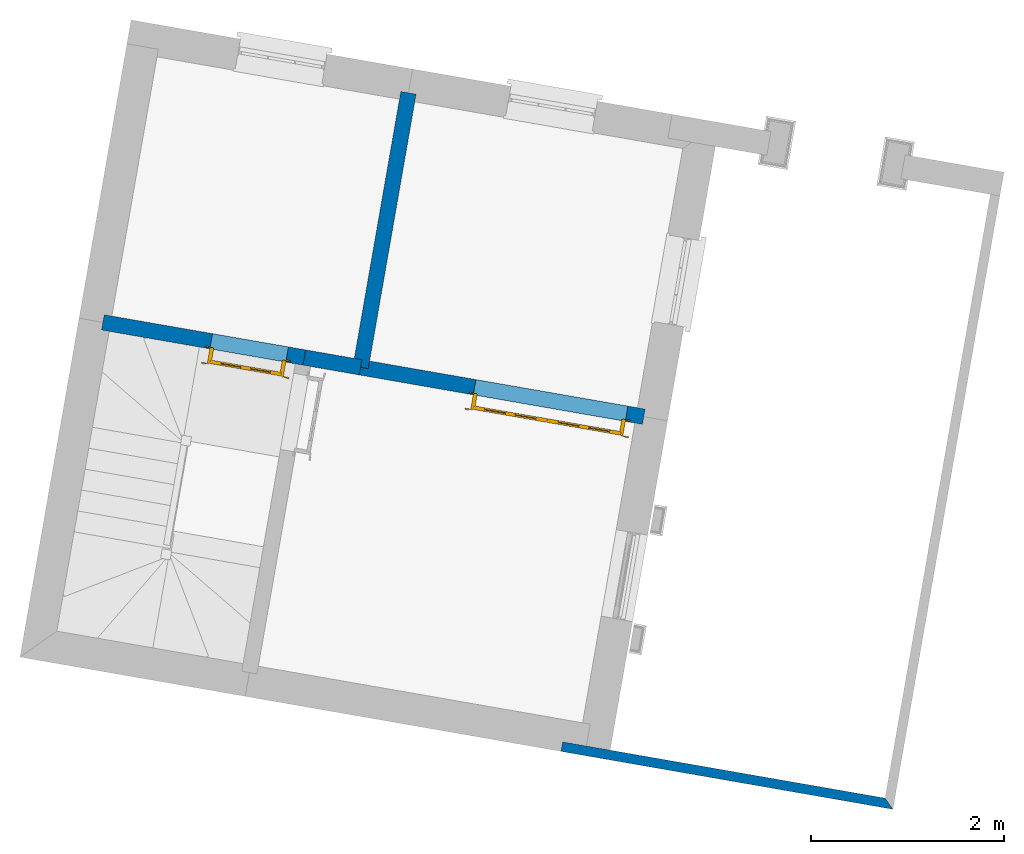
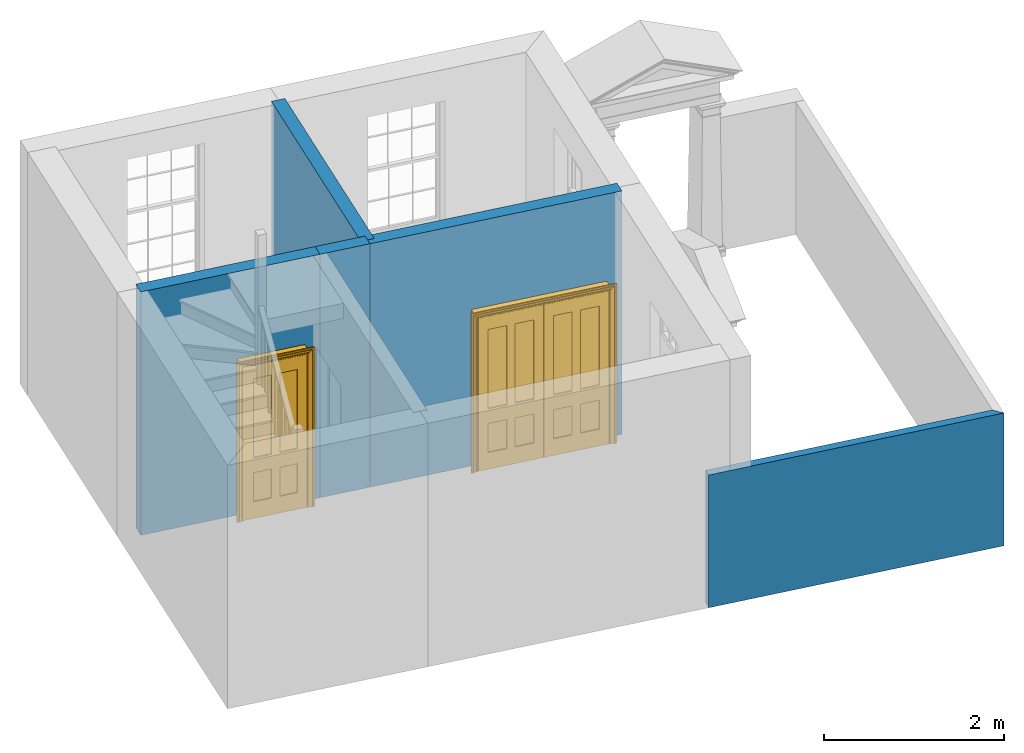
# One storey, part 3 of 6: 5 walls, 2 doors, 2 openings.
"""IFC4 building model written with IfcOpenShell, lengths in metres."""

from ifc_helpers import new_model, si_unit, frame, origin, origin_with_axes, place, context, subcontext, project, spatial, polyline, outline, extrude, faceted_brep, source, transform, mapped, material, layer, layer_set, layer_usage, type_object, type_shapes, element, fill, save


model = new_model("IFC4")

# Units and contexts
model_context = context("Model", 3, world=origin_with_axes())
body_context = subcontext(model_context, "Body", "Model", "MODEL_VIEW")
ifc_project = project(units=[si_unit("PLANEANGLEUNIT", "RADIAN"), si_unit("MASSUNIT", "GRAM", prefix="KILO"), si_unit("FORCEUNIT", "NEWTON", prefix="KILO"), si_unit("LENGTHUNIT", "METRE"), si_unit("AREAUNIT", "SQUARE_METRE"), si_unit("VOLUMEUNIT", "CUBIC_METRE")], contexts=[model_context, model_context])

# Sites, building, storey
site_1_placement = place(None, origin_with_axes())
site_1 = spatial("IfcSite", under=ifc_project, at=site_1_placement, Name="Tamar")
site_2_placement = place(site_1_placement, origin_with_axes())
site_2 = spatial("IfcSite", under=site_1, at=site_2_placement, Name="Site plot-27", CompositionType="ELEMENT")
building_placement = place(None, origin_with_axes())
building = spatial("IfcBuilding", under=site_2, at=building_placement, Name="Building plot-27", CompositionType="ELEMENT")
storey_placement = place(None, frame((0.0, 0.0, 26.0), z_axis=(0.0, 0.0, 1.0), x_axis=(1.0, 0.0, 0.0)))
storey = spatial("IfcBuildingStorey", under=building, at=storey_placement, Name="plot-27 0", CompositionType="ELEMENT", Elevation=26.0)

# Wall, opening, door
ifc_material_1 = material(Name="Masonry")
ifc_layer_1 = layer(ifc_material_1, 0.16, ventilated=False)
ifc_layer_set_1 = layer_set([ifc_layer_1], Name="interior_0.08_0.08")
ifc_layer_usage_1 = layer_usage(ifc_layer_set_1, "AXIS2", "POSITIVE", -0.08)
wall_type_1 = type_object("IfcWallType", Name="interior_0.08_0.08", PredefinedType="SOLIDWALL", material=ifc_layer_set_1)
wall_1_placement = place(storey_placement, frame((297.19996948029, 271.518143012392, 0.0), z_axis=(0.0, 0.0, 1.0), x_axis=(-0.985133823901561, 0.171788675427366, 0.0)))
wall_1 = element("IfcWall", 1, at=wall_1_placement, inside=storey, type_object=wall_type_1, material=ifc_layer_usage_1, Name="interior", context=body_context, shape_type="SweptSolid", body=[
    extrude(outline(polyline([(-2.16311277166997e-14, 0.0800000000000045), (2.16409248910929e-14, -0.0800000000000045), (2.97869342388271, -0.0800000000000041), (2.97869342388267, 0.0800000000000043), (-2.16311277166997e-14, 0.0800000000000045)])), origin_with_axes(), (0.0, 0.0, 1.0), 3.3),
])
opening_1_placement = place(wall_1_placement, frame((0.180000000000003, 0.0, 0.0199999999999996)))
opening_1 = element("IfcOpeningElement", 2, at=opening_1_placement, cuts=wall_1, Name="My Opening", ObjectType="Opening", context=body_context, shape_type="SweptSolid", body=[
    extrude(outline(polyline([(0.0, -0.100000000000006), (1.59999999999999, -0.0999999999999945), (1.59999999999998, 1.09999999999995), (-1.49324996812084e-14, 1.09999999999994), (0.0, -0.100000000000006)])), origin_with_axes(), (0.0, 0.0, 1.0), 2.1),
])
door_type_1 = type_object("IfcDoorType", Name="door_inside_double", OperationType="SINGLE_SWING_LEFT", PredefinedType="NOTDEFINED")
shared_shape_1 = source(origin(), body_context, "Body", "Brep", [
    faceted_brep([(0.14, 0.307, 1.895), (0.14, 0.307, 0.82), (0.363, 0.307, 0.82), (0.363, 0.307, 1.895), (0.14, 0.292, 1.895), (0.14, 0.292, 0.82), (0.363, 0.292, 0.82), (0.363, 0.292, 1.895), (0.027, 0.292, 1.895), (0.027, 0.292, 0.82), (0.363, 0.292, 0.62), (0.14, 0.292, 0.62), (0.463, 0.292, 0.82), (0.463, 0.292, 1.895), (0.363, 0.292, 2.073), (0.14, 0.292, 2.073), (0.027, 0.292, 2.073), (0.027, 0.33, 1.895), (0.027, 0.33, 0.82), (0.027, 0.292, 0.62), (0.463, 0.292, 0.62), (0.14, 0.307, 0.62), (0.363, 0.307, 0.62), (0.463, 0.307, 0.82), (0.463, 0.307, 1.895), (0.463, 0.292, 2.073), (0.14, 0.33, 2.073), (0.363, 0.33, 2.073), (0.027, 0.33, 2.073), (0.14, 0.33, 1.895), (0.14, 0.33, 0.82), (0.027, 0.33, 0.62), (0.027, 0.292, 0.225), (0.14, 0.292, 0.225), (0.363, 0.292, 0.225), (0.463, 0.292, 0.225), (0.686, 0.292, 0.62), (0.686, 0.292, 0.82), (0.14, 0.307, 0.225), (0.363, 0.307, 0.225), (0.686, 0.307, 0.82), (0.686, 0.307, 1.895), (0.686, 0.292, 1.895), (0.686, 0.292, 2.073), (0.463, 0.33, 2.073), (0.363, 0.33, 1.895), (0.14, 0.315, 1.895), (0.14, 0.315, 0.82), (0.14, 0.33, 0.62), (0.027, 0.33, 0.225), (0.027, 0.292, 0.0), (0.14, 0.292, 0.0), (0.363, 0.292, 0.0), (0.463, 0.292, 0.0), (0.463, 0.307, 0.225), (0.463, 0.307, 0.62), (0.686, 0.307, 0.62), (0.799, 0.292, 0.62), (0.799, 0.292, 0.82), (0.799, 0.292, 1.895), (0.799, 0.292, 2.073), (0.686, 0.33, 2.073), (0.463, 0.33, 1.895), (0.363, 0.315, 1.895), (0.363, 0.315, 0.82), (0.363, 0.33, 0.82), (0.363, 0.33, 0.62), (0.14, 0.33, 0.225), (0.027, 0.33, 0.0), (0.14, 0.33, 0.0), (0.363, 0.33, 0.0), (0.463, 0.33, 0.0), (0.686, 0.292, 0.0), (0.686, 0.292, 0.225), (0.686, 0.307, 0.225), (0.799, 0.292, 0.225), (0.799, 0.33, 0.62), (0.799, 0.33, 0.82), (0.799, 0.33, 1.895), (0.799, 0.33, 2.073), (0.686, 0.33, 1.895), (0.463, 0.33, 0.82), (0.463, 0.33, 0.62), (0.363, 0.315, 0.62), (0.14, 0.315, 0.62), (0.14, 0.315, 0.225), (0.363, 0.33, 0.225), (0.463, 0.33, 0.225), (0.686, 0.33, 0.0), (0.799, 0.292, 0.0), (0.799, 0.33, 0.225), (0.686, 0.33, 0.62), (0.686, 0.33, 0.82), (0.686, 0.315, 1.895), (0.463, 0.315, 1.895), (0.463, 0.315, 0.82), (0.363, 0.315, 0.225), (0.686, 0.33, 0.225), (0.799, 0.33, 0.0), (0.686, 0.315, 0.82), (0.463, 0.315, 0.62), (0.463, 0.315, 0.225), (0.686, 0.315, 0.62), (0.686, 0.315, 0.225), (1.46, 0.33, 1.895), (1.237, 0.33, 1.895), (1.237, 0.33, 2.073), (1.46, 0.33, 2.073), (1.46, 0.315, 1.895), (1.237, 0.315, 1.895), (1.137, 0.33, 1.895), (1.137, 0.33, 2.073), (1.237, 0.292, 2.073), (1.46, 0.292, 2.073), (1.573, 0.33, 1.895), (1.573, 0.33, 2.073), (1.46, 0.33, 0.82), (1.46, 0.315, 0.82), (1.237, 0.315, 0.82), (1.237, 0.33, 0.82), (1.137, 0.33, 0.82), (0.914, 0.33, 2.073), (0.914, 0.33, 1.895), (1.137, 0.292, 2.073), (1.237, 0.292, 1.895), (1.46, 0.292, 1.895), (1.573, 0.292, 2.073), (1.573, 0.33, 0.82), (1.573, 0.292, 1.895), (1.237, 0.33, 0.62), (1.137, 0.33, 0.62), (1.137, 0.315, 0.82), (1.137, 0.315, 1.895), (0.914, 0.292, 2.073), (0.914, 0.315, 1.895), (0.801, 0.33, 2.073), (0.801, 0.33, 1.895), (1.137, 0.292, 1.895), (1.237, 0.307, 1.895), (1.46, 0.307, 1.895), (1.573, 0.292, 0.82), (1.573, 0.33, 0.62), (1.46, 0.33, 0.62), (1.237, 0.33, 0.225), (1.137, 0.33, 0.225), (0.914, 0.33, 0.82), (0.914, 0.33, 0.62), (0.914, 0.315, 0.82), (0.801, 0.292, 2.073), (0.914, 0.292, 1.895), (0.801, 0.33, 0.82), (0.801, 0.292, 1.895), (1.137, 0.292, 0.82), (1.237, 0.292, 0.82), (1.237, 0.307, 0.82), (1.46, 0.307, 0.82), (1.46, 0.292, 0.82), (1.573, 0.292, 0.62), (1.573, 0.33, 0.225), (1.46, 0.33, 0.225), (1.46, 0.315, 0.62), (1.237, 0.315, 0.62), (1.237, 0.33, 0.0), (1.137, 0.33, 0.0), (1.137, 0.315, 0.225), (1.137, 0.315, 0.62), (1.237, 0.315, 0.225), (0.914, 0.315, 0.62), (0.801, 0.33, 0.62), (0.914, 0.307, 1.895), (1.137, 0.307, 1.895), (0.801, 0.292, 0.82), (1.137, 0.292, 0.62), (1.237, 0.292, 0.62), (1.137, 0.307, 0.82), (1.46, 0.292, 0.62), (1.573, 0.292, 0.225), (1.573, 0.33, 0.0), (1.46, 0.33, 0.0), (1.46, 0.315, 0.225), (1.237, 0.292, 0.0), (1.137, 0.292, 0.0), (0.914, 0.33, 0.225), (0.914, 0.33, 0.0), (0.914, 0.315, 0.225), (0.801, 0.33, 0.225), (0.801, 0.292, 0.62), (0.914, 0.292, 0.82), (0.914, 0.307, 0.82), (1.137, 0.292, 0.225), (1.237, 0.292, 0.225), (0.914, 0.292, 0.62), (1.46, 0.292, 0.225), (1.573, 0.292, 0.0), (1.46, 0.292, 0.0), (0.914, 0.292, 0.0), (0.801, 0.33, 0.0), (0.801, 0.292, 0.225), (1.237, 0.307, 0.225), (1.237, 0.307, 0.62), (1.137, 0.307, 0.62), (1.137, 0.307, 0.225), (1.46, 0.307, 0.62), (0.914, 0.307, 0.62), (1.46, 0.307, 0.225), (0.914, 0.292, 0.225), (0.801, 0.292, 0.0), (0.914, 0.307, 0.225), (0.02, 0.335, 0.0), (0.005, 0.34, 0.0), (0.005, 0.34, 2.095), (0.02, 0.335, 2.08), (0.02, 0.33, 0.0), (0.0, 0.335, 0.0), (0.0, 0.335, 2.1), (1.595, 0.34, 2.095), (1.58, 0.335, 2.08), (0.02, 0.33, 2.08), (0.0, 0.33, 0.0), (-0.032, 0.345, 0.0), (-0.032, 0.345, 2.132), (1.6, 0.335, 2.1), (1.595, 0.34, 0.0), (1.58, 0.335, 0.0), (1.58, 0.33, 2.08), (0.025, 0.33, 0.0), (0.025, 0.33, 2.075), (-0.04, 0.34, 0.0), (0.025, 0.29, 0.0), (0.0, 0.17, 0.0), (-0.04, 0.34, 2.14), (1.632, 0.345, 2.132), (1.6, 0.335, 0.0), (1.58, 0.33, 0.0), (1.575, 0.33, 2.075), (0.025, 0.29, 2.075), (-0.06, 0.33, 0.0), (0.035, 0.17, 0.0), (0.0, 0.17, 2.1), (0.0, 0.33, 2.1), (-0.04, 0.345, 0.0), (-0.04, 0.345, 2.14), (1.64, 0.34, 2.14), (1.632, 0.345, 0.0), (1.6, 0.33, 0.0), (1.575, 0.33, 0.0), (1.575, 0.29, 2.075), (0.04, 0.29, 0.0), (0.04, 0.29, 2.06), (-0.06, 0.345, 0.0), (-0.06, 0.33, 2.16), (0.015, 0.165, 0.0), (0.04, 0.17, 0.0), (-0.045, 0.17, 2.145), (-0.045, 0.17, 0.0), (1.6, 0.17, 2.1), (1.6, 0.33, 2.1), (-0.06, 0.345, 2.16), (1.64, 0.345, 2.14), (1.64, 0.34, 0.0), (1.6, 0.17, 0.0), (1.575, 0.29, 0.0), (1.56, 0.29, 2.06), (0.04, 0.17, 2.06), (1.66, 0.33, 2.16), (-0.017, 0.155, 0.0), (-0.025, 0.16, 0.0), (0.02, 0.16, 0.0), (0.035, 0.165, 0.0), (0.035, 0.17, 2.065), (1.645, 0.17, 2.145), (-0.045, 0.155, 2.145), (-0.045, 0.155, 0.0), (1.66, 0.345, 2.16), (1.64, 0.345, 0.0), (1.66, 0.33, 0.0), (1.565, 0.17, 0.0), (1.56, 0.29, 0.0), (1.56, 0.17, 2.06), (-0.017, 0.155, 2.117), (-0.025, 0.16, 2.125), (0.015, 0.165, 2.085), (0.02, 0.16, 2.08), (0.035, 0.165, 2.065), (1.565, 0.17, 2.065), (1.645, 0.17, 0.0), (1.645, 0.155, 2.145), (-0.025, 0.155, 0.0), (1.66, 0.345, 0.0), (1.585, 0.165, 0.0), (1.56, 0.17, 0.0), (1.617, 0.155, 2.117), (1.625, 0.16, 2.125), (-0.025, 0.155, 2.125), (1.585, 0.165, 2.085), (1.58, 0.16, 2.08), (1.565, 0.165, 2.065), (1.625, 0.16, 0.0), (1.645, 0.155, 0.0), (1.625, 0.155, 2.125), (1.617, 0.155, 0.0), (1.565, 0.165, 0.0), (1.58, 0.16, 0.0), (1.625, 0.155, 0.0)], [[[0, 1, 2, 3]], [[1, 0, 4, 5]], [[2, 1, 5, 6]], [[6, 7, 3, 2]], [[7, 4, 0, 3]], [[4, 8, 9, 5]], [[10, 6, 5, 11]], [[6, 12, 13, 7]], [[14, 15, 4, 7]], [[15, 16, 8, 4]], [[9, 8, 17, 18]], [[5, 9, 19, 11]], [[10, 20, 12, 6]], [[10, 11, 21, 22]], [[13, 12, 23, 24]], [[7, 13, 25, 14]], [[26, 15, 14, 27]], [[28, 16, 15, 26]], [[8, 16, 28, 17]], [[17, 29, 30, 18]], [[18, 31, 19, 9]], [[11, 19, 32, 33]], [[34, 35, 20, 10]], [[20, 36, 37, 12]], [[11, 33, 38, 21]], [[39, 22, 21, 38]], [[34, 10, 22, 39]], [[12, 37, 40, 23]], [[24, 23, 40, 41]], [[42, 13, 24, 41]], [[13, 42, 43, 25]], [[14, 25, 44, 27]], [[26, 27, 45, 29]], [[28, 26, 29, 17]], [[30, 29, 46, 47]], [[18, 30, 48, 31]], [[31, 49, 32, 19]], [[33, 32, 50, 51]], [[52, 53, 35, 34]], [[20, 35, 54, 55]], [[36, 20, 55, 56]], [[36, 57, 58, 37]], [[33, 34, 39, 38]], [[37, 42, 41, 40]], [[42, 59, 60, 43]], [[44, 25, 43, 61]], [[62, 45, 27, 44]], [[29, 45, 63, 46]], [[46, 63, 64, 47]], [[65, 30, 47, 64]], [[30, 65, 66, 48]], [[31, 48, 67, 49]], [[68, 50, 32, 49]], [[68, 69, 51, 50]], [[34, 33, 51, 52]], [[53, 52, 70, 71]], [[53, 72, 73, 35]], [[35, 73, 74, 54]], [[55, 54, 74, 56]], [[73, 36, 56, 74]], [[73, 75, 57, 36]], [[57, 76, 77, 58]], [[37, 58, 59, 42]], [[78, 79, 60, 59]], [[60, 79, 61, 43]], [[80, 62, 44, 61]], [[81, 65, 45, 62]], [[45, 65, 64, 63]], [[82, 66, 65, 81]], [[48, 66, 83, 84]], [[67, 48, 84, 85]], [[49, 67, 69, 68]], [[52, 51, 69, 70]], [[71, 70, 86, 87]], [[72, 53, 71, 88]], [[72, 89, 75, 73]], [[75, 90, 76, 57]], [[76, 91, 92, 77]], [[78, 59, 58, 77]], [[78, 80, 61, 79]], [[62, 80, 93, 94]], [[81, 62, 94, 95]], [[87, 86, 66, 82]], [[91, 82, 81, 92]], [[66, 86, 96, 83]], [[84, 83, 96, 85]], [[86, 67, 85, 96]], [[67, 86, 70, 69]], [[88, 71, 87, 97]], [[89, 72, 88, 98]], [[89, 98, 90, 75]], [[90, 97, 91, 76]], [[80, 78, 77, 92]], [[80, 92, 99, 93]], [[99, 95, 94, 93]], [[92, 81, 95, 99]], [[87, 82, 100, 101]], [[82, 91, 102, 100]], [[97, 87, 101, 103]], [[98, 88, 97, 90]], [[91, 97, 103, 102]], [[103, 101, 100, 102]], [[104, 105, 106, 107]], [[105, 104, 108, 109]], [[105, 110, 111, 106]], [[106, 112, 113, 107]], [[114, 104, 107, 115]], [[104, 116, 117, 108]], [[117, 118, 109, 108]], [[119, 105, 109, 118]], [[119, 120, 110, 105]], [[121, 111, 110, 122]], [[123, 112, 106, 111]], [[124, 125, 113, 112]], [[126, 115, 107, 113]], [[104, 114, 127, 116]], [[114, 115, 126, 128]], [[116, 119, 118, 117]], [[129, 130, 120, 119]], [[110, 120, 131, 132]], [[121, 133, 123, 111]], [[122, 110, 132, 134]], [[135, 121, 122, 136]], [[137, 124, 112, 123]], [[125, 124, 138, 139]], [[125, 128, 126, 113]], [[114, 128, 140, 127]], [[141, 142, 116, 127]], [[142, 129, 119, 116]], [[143, 144, 130, 129]], [[145, 120, 130, 146]], [[120, 145, 147, 131]], [[134, 132, 131, 147]], [[135, 148, 133, 121]], [[123, 133, 149, 137]], [[145, 122, 134, 147]], [[136, 122, 145, 150]], [[151, 148, 135, 136]], [[152, 153, 124, 137]], [[124, 153, 154, 138]], [[138, 154, 155, 139]], [[156, 125, 139, 155]], [[156, 140, 128, 125]], [[157, 141, 127, 140]], [[158, 159, 142, 141]], [[129, 142, 160, 161]], [[162, 163, 144, 143]], [[130, 144, 164, 165]], [[143, 129, 161, 166]], [[146, 130, 165, 167]], [[150, 145, 146, 168]], [[133, 148, 151, 149]], [[137, 149, 169, 170]], [[171, 151, 136, 150]], [[172, 173, 153, 152]], [[152, 137, 170, 174]], [[153, 156, 155, 154]], [[175, 157, 140, 156]], [[176, 158, 141, 157]], [[177, 178, 159, 158]], [[142, 159, 179, 160]], [[179, 166, 161, 160]], [[180, 181, 163, 162]], [[182, 144, 163, 183]], [[178, 162, 143, 159]], [[144, 182, 184, 164]], [[167, 165, 164, 184]], [[159, 143, 166, 179]], [[182, 146, 167, 184]], [[168, 146, 182, 185]], [[150, 168, 186, 171]], [[149, 151, 171, 187]], [[149, 187, 188, 169]], [[169, 188, 174, 170]], [[189, 190, 173, 172]], [[173, 175, 156, 153]], [[172, 152, 187, 191]], [[187, 152, 174, 188]], [[192, 176, 157, 175]], [[193, 177, 158, 176]], [[193, 194, 178, 177]], [[181, 180, 190, 189]], [[181, 195, 183, 163]], [[194, 180, 162, 178]], [[185, 182, 183, 196]], [[168, 185, 197, 186]], [[187, 171, 186, 191]], [[173, 190, 198, 199]], [[189, 172, 200, 201]], [[175, 173, 199, 202]], [[172, 191, 203, 200]], [[194, 193, 176, 192]], [[192, 175, 202, 204]], [[180, 194, 192, 190]], [[189, 205, 195, 181]], [[196, 183, 195, 206]], [[196, 206, 197, 185]], [[191, 186, 197, 205]], [[190, 192, 204, 198]], [[199, 198, 204, 202]], [[201, 200, 203, 207]], [[205, 189, 201, 207]], [[191, 205, 207, 203]], [[205, 197, 206, 195]], [[208, 209, 210, 211]], [[208, 212, 213, 209]], [[209, 213, 214, 210]], [[211, 210, 215, 216]], [[211, 217, 212, 208]], [[218, 213, 212]], [[213, 219, 220, 214]], [[210, 214, 221, 215]], [[216, 215, 222, 223]], [[217, 211, 216, 224]], [[225, 212, 217, 226]], [[219, 213, 218, 227]], [[218, 212, 228, 229]], [[219, 227, 230, 220]], [[214, 220, 231, 221]], [[215, 221, 232, 222]], [[222, 232, 233, 223]], [[224, 216, 223, 233]], [[226, 217, 224, 234]], [[225, 228, 212]], [[235, 228, 225, 226]], [[236, 227, 218]], [[237, 229, 228]], [[229, 238, 239, 218]], [[227, 240, 241, 230]], [[220, 230, 242, 231]], [[221, 231, 243, 232]], [[244, 233, 232]], [[234, 224, 233, 245]], [[246, 235, 226, 234]], [[247, 228, 235, 248]], [[240, 227, 236, 249]], [[239, 250, 236, 218]], [[251, 229, 237]], [[252, 237, 228, 247]], [[253, 238, 229, 254]], [[238, 255, 256, 239]], [[241, 240, 257]], [[230, 241, 258, 242]], [[231, 242, 259, 243]], [[259, 244, 232, 243]], [[260, 261, 233, 244]], [[245, 233, 261]], [[261, 246, 234, 245]], [[248, 235, 246, 262]], [[248, 263, 252, 247]], [[250, 257, 249, 236]], [[240, 249, 257]], [[256, 264, 250, 239]], [[265, 266, 229, 251]], [[267, 251, 237, 268]], [[263, 269, 237, 252]], [[270, 255, 238, 253]], [[229, 266, 254]], [[271, 253, 254, 272]], [[256, 255, 260, 244]], [[273, 241, 257]], [[273, 258, 241]], [[242, 258, 274, 259]], [[275, 244, 259]], [[260, 276, 261]], [[261, 277, 262, 246]], [[262, 278, 263, 248]], [[264, 273, 257, 250]], [[244, 275, 264, 256]], [[266, 265, 279, 280]], [[265, 251, 281, 279]], [[251, 267, 282, 281]], [[269, 283, 268, 237]], [[267, 268, 283, 282]], [[278, 284, 269, 263]], [[285, 260, 255, 270]], [[286, 270, 253, 271]], [[272, 254, 266, 287]], [[271, 272, 287]], [[273, 274, 258]], [[288, 275, 259, 274]], [[276, 260, 289]], [[277, 261, 276, 290]], [[278, 262, 277, 290]], [[275, 288, 273, 264]], [[280, 279, 291, 292]], [[287, 266, 280, 293]], [[279, 281, 294, 291]], [[281, 282, 295, 294]], [[284, 296, 283, 269]], [[282, 283, 296, 295]], [[290, 276, 284, 278]], [[285, 297, 260]], [[298, 285, 270, 286]], [[299, 286, 271]], [[271, 287, 293]], [[273, 288, 274]], [[300, 289, 260, 297]], [[301, 276, 289, 302]], [[292, 291, 300, 297]], [[293, 280, 292, 299]], [[291, 294, 289, 300]], [[294, 295, 302, 289]], [[296, 284, 276, 301]], [[295, 296, 301, 302]], [[303, 297, 285, 298]], [[299, 298, 286]], [[271, 293, 299]], [[299, 292, 297, 303]], [[299, 303, 298]]]),
])
type_shapes(door_type_1, [shared_shape_1])
door_1_placement = place(storey_placement, frame((297.03982425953, 271.647578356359, 0.0199999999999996), z_axis=(0.0, 0.0, 1.0), x_axis=(-1.57621411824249, 0.274861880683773, 0.0)))
door_1 = element("IfcDoor", 3, at=door_1_placement, inside=storey, type_object=door_type_1, Name="kitchen living inside door", OverallHeight=2.1, OverallWidth=1.6, context=body_context, shape_type="MappedRepresentation", body=[
    mapped(shared_shape_1, transform((0.0, 0.0, 0.0), scale=1.0)),
])
fill(opening_1, door_1)

# Walls
wall_2_placement = place(storey_placement, frame((294.26555783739, 272.029848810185, 0.0), z_axis=(0.0, 0.0, 1.0), x_axis=(-0.985133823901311, 0.171788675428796, 0.0)))
element("IfcWall", 4, at=wall_2_placement, inside=storey, type_object=wall_type_1, material=ifc_layer_usage_1, Name="interior", context=body_context, shape_type="SweptSolid", body=[
    extrude(outline(polyline([(-2.58233298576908e-14, 0.080000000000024), (2.581536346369e-14, -0.080000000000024), (0.592154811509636, -0.080000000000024), (0.592154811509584, 0.0800000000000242), (-2.58233298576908e-14, 0.080000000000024)])), origin_with_axes(), (0.0, 0.0, 1.0), 3.3),
])
wall_3_placement = place(storey_placement, frame((294.26555783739, 272.029848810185, 0.0), z_axis=(0.0, 0.0, 1.0), x_axis=(0.171788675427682, 0.985133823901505, 0.0)))
element("IfcWall", 5, at=wall_3_placement, inside=storey, type_object=wall_type_1, material=ifc_layer_usage_1, Name="interior", context=body_context, shape_type="SweptSolid", body=[
    extrude(outline(polyline([(8.69128353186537e-15, 0.0800000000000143), (-8.69924992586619e-15, -0.0800000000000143), (2.88690107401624, -0.0800000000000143), (2.88690107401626, 0.0800000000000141), (8.69128353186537e-15, 0.0800000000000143)])), origin_with_axes(), (0.0, 0.0, 1.0), 3.3),
])

# Wall, opening, door
wall_4_placement = place(storey_placement, frame((293.682206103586, 272.131574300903, 0.0), z_axis=(0.0, 0.0, 1.0), x_axis=(-0.985133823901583, 0.17178867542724, 0.0)))
wall_4 = element("IfcWall", 6, at=wall_4_placement, inside=storey, type_object=wall_type_1, material=ifc_layer_usage_1, Name="interior", context=body_context, shape_type="SweptSolid", body=[
    extrude(outline(polyline([(-1.14348394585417e-14, 0.0800000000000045), (1.14446366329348e-14, -0.0800000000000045), (2.11883518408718, -0.0800000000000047), (2.11883518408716, 0.0800000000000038), (-1.14348394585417e-14, 0.0800000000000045)])), origin_with_axes(), (0.0, 0.0, 1.0), 3.3),
])
opening_2_placement = place(wall_4_placement, frame((0.17999999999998, 0.0, 0.0199999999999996)))
opening_2 = element("IfcOpeningElement", 7, at=opening_2_placement, cuts=wall_4, Name="My Opening", ObjectType="Opening", context=body_context, shape_type="SweptSolid", body=[
    extrude(outline(polyline([(0.0, -0.0999999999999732), (0.800000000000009, -0.0999999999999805), (0.800000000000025, 1.1), (1.64590563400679e-14, 1.10000000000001), (0.0, -0.0999999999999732)])), origin_with_axes(), (0.0, 0.0, 1.0), 2.1),
])
door_type_2 = type_object("IfcDoorType", Name="door_inside", OperationType="SINGLE_SWING_LEFT", PredefinedType="NOTDEFINED")
shared_shape_2 = source(origin(), body_context, "Body", "Brep", [
    faceted_brep([(0.773, 0.33, 1.895), (0.66, 0.33, 1.895), (0.66, 0.33, 2.073), (0.773, 0.33, 2.073), (0.773, 0.33, 0.82), (0.66, 0.33, 0.82), (0.45, 0.33, 1.895), (0.45, 0.33, 2.073), (0.773, 0.33, 0.62), (0.66, 0.33, 0.62), (0.66, 0.315, 0.82), (0.66, 0.315, 1.895), (0.45, 0.315, 1.895), (0.35, 0.33, 1.895), (0.35, 0.33, 2.073), (0.773, 0.33, 0.225), (0.66, 0.33, 0.225), (0.45, 0.33, 0.62), (0.45, 0.33, 0.82), (0.45, 0.315, 0.82), (0.35, 0.33, 0.82), (0.14, 0.33, 2.073), (0.14, 0.33, 1.895), (0.773, 0.33, 0.0), (0.66, 0.33, 0.0), (0.66, 0.315, 0.225), (0.66, 0.315, 0.62), (0.45, 0.315, 0.62), (0.35, 0.33, 0.62), (0.35, 0.315, 0.82), (0.35, 0.315, 1.895), (0.14, 0.315, 1.895), (0.027, 0.33, 2.073), (0.027, 0.33, 1.895), (0.773, 0.292, 0.0), (0.66, 0.292, 0.0), (0.45, 0.33, 0.0), (0.45, 0.33, 0.225), (0.45, 0.315, 0.225), (0.35, 0.33, 0.225), (0.14, 0.33, 0.82), (0.14, 0.33, 0.62), (0.14, 0.315, 0.82), (0.027, 0.33, 0.82), (0.773, 0.292, 0.225), (0.66, 0.292, 0.225), (0.45, 0.292, 0.0), (0.35, 0.33, 0.0), (0.35, 0.315, 0.225), (0.35, 0.315, 0.62), (0.14, 0.315, 0.62), (0.027, 0.33, 0.62), (0.773, 0.292, 0.62), (0.66, 0.292, 0.62), (0.45, 0.292, 0.225), (0.35, 0.292, 0.0), (0.14, 0.33, 0.225), (0.14, 0.33, 0.0), (0.14, 0.315, 0.225), (0.027, 0.33, 0.225), (0.773, 0.292, 0.82), (0.66, 0.292, 0.82), (0.66, 0.307, 0.62), (0.66, 0.307, 0.225), (0.45, 0.307, 0.225), (0.35, 0.292, 0.225), (0.14, 0.292, 0.0), (0.027, 0.33, 0.0), (0.773, 0.292, 1.895), (0.66, 0.292, 1.895), (0.45, 0.292, 0.62), (0.45, 0.292, 0.82), (0.45, 0.307, 0.62), (0.35, 0.292, 0.62), (0.14, 0.292, 0.225), (0.027, 0.292, 0.0), (0.773, 0.292, 2.073), (0.66, 0.292, 2.073), (0.66, 0.307, 1.895), (0.66, 0.307, 0.82), (0.45, 0.307, 0.82), (0.35, 0.292, 0.82), (0.35, 0.307, 0.62), (0.35, 0.307, 0.225), (0.14, 0.307, 0.225), (0.027, 0.292, 0.225), (0.45, 0.292, 1.895), (0.45, 0.292, 2.073), (0.45, 0.307, 1.895), (0.35, 0.292, 1.895), (0.14, 0.292, 0.82), (0.14, 0.292, 0.62), (0.14, 0.307, 0.62), (0.027, 0.292, 0.62), (0.35, 0.292, 2.073), (0.35, 0.307, 1.895), (0.35, 0.307, 0.82), (0.14, 0.307, 0.82), (0.027, 0.292, 0.82), (0.14, 0.292, 2.073), (0.14, 0.292, 1.895), (0.14, 0.307, 1.895), (0.027, 0.292, 1.895), (0.027, 0.292, 2.073), (0.02, 0.335, 0.0), (0.005, 0.34, 0.0), (0.005, 0.34, 2.095), (0.02, 0.335, 2.08), (0.02, 0.33, 0.0), (0.0, 0.335, 0.0), (0.0, 0.335, 2.1), (0.795, 0.34, 2.095), (0.78, 0.335, 2.08), (0.02, 0.33, 2.08), (0.0, 0.33, 0.0), (-0.032, 0.345, 0.0), (-0.032, 0.345, 2.132), (0.8, 0.335, 2.1), (0.795, 0.34, 0.0), (0.78, 0.335, 0.0), (0.78, 0.33, 2.08), (0.04, 0.29, 0.0), (0.025, 0.29, 0.0), (0.025, 0.29, 2.075), (0.04, 0.29, 2.06), (-0.04, 0.34, 0.0), (-0.04, 0.34, 2.14), (0.832, 0.345, 2.132), (0.8, 0.335, 0.0), (0.78, 0.33, 0.0), (0.8, 0.33, 0.0), (0.86, 0.33, 0.0), (0.86, 0.33, 2.16), (0.8, 0.33, 2.1), (-0.06, 0.33, 2.16), (0.0, 0.33, 2.1), (-0.06, 0.33, 0.0), (-0.04, 0.345, 0.0), (-0.04, 0.345, 2.14), (0.84, 0.34, 2.14), (0.832, 0.345, 0.0), (0.84, 0.34, 0.0), (0.86, 0.345, 0.0), (0.86, 0.345, 2.16), (-0.06, 0.345, 2.16), (-0.06, 0.345, 0.0), (0.84, 0.345, 0.0), (0.84, 0.345, 2.14), (-0.025, 0.155, 0.0), (-0.025, 0.16, 0.0), (-0.025, 0.16, 2.125), (-0.025, 0.155, 2.125), (-0.017, 0.155, 0.0), (-0.017, 0.155, 2.117), (0.825, 0.16, 2.125), (0.825, 0.155, 2.125), (0.825, 0.155, 0.0), (0.845, 0.155, 0.0), (-0.045, 0.155, 2.145), (-0.045, 0.155, 0.0), (0.845, 0.155, 2.145), (0.015, 0.165, 0.0), (0.015, 0.165, 2.085), (0.817, 0.155, 2.117), (0.825, 0.16, 0.0), (0.845, 0.17, 0.0), (0.845, 0.17, 2.145), (-0.045, 0.17, 2.145), (-0.045, 0.17, 0.0), (0.02, 0.16, 0.0), (0.02, 0.16, 2.08), (0.785, 0.165, 2.085), (0.817, 0.155, 0.0), (0.8, 0.17, 0.0), (0.8, 0.17, 2.1), (0.0, 0.17, 2.1), (0.0, 0.17, 0.0), (0.035, 0.165, 0.0), (0.035, 0.165, 2.065), (0.78, 0.16, 2.08), (0.785, 0.165, 0.0), (0.775, 0.29, 2.075), (0.76, 0.29, 2.06), (0.035, 0.17, 2.065), (0.035, 0.17, 0.0), (0.765, 0.165, 2.065), (0.78, 0.16, 0.0), (0.765, 0.17, 0.0), (0.765, 0.17, 2.065), (0.765, 0.165, 0.0), (0.04, 0.17, 2.06), (0.04, 0.17, 0.0), (0.76, 0.17, 2.06), (0.76, 0.17, 0.0), (0.76, 0.29, 0.0), (0.775, 0.29, 0.0), (0.025, 0.33, 0.0), (0.025, 0.33, 2.075), (0.775, 0.33, 0.0), (0.775, 0.33, 2.075)], [[[0, 1, 2, 3]], [[1, 0, 4, 5]], [[1, 6, 7, 2]], [[8, 9, 5, 4]], [[1, 5, 10, 11]], [[6, 1, 11, 12]], [[6, 13, 14, 7]], [[15, 16, 9, 8]], [[9, 17, 18, 5]], [[5, 18, 19, 10]], [[10, 19, 12, 11]], [[18, 6, 12, 19]], [[18, 20, 13, 6]], [[21, 14, 13, 22]], [[23, 24, 16, 15]], [[9, 16, 25, 26]], [[17, 9, 26, 27]], [[17, 28, 20, 18]], [[13, 20, 29, 30]], [[22, 13, 30, 31]], [[32, 21, 22, 33]], [[34, 35, 24, 23]], [[24, 36, 37, 16]], [[16, 37, 38, 25]], [[25, 38, 27, 26]], [[37, 17, 27, 38]], [[37, 39, 28, 17]], [[40, 20, 28, 41]], [[20, 40, 42, 29]], [[31, 30, 29, 42]], [[40, 22, 31, 42]], [[33, 22, 40, 43]], [[35, 34, 44, 45]], [[35, 46, 36, 24]], [[36, 47, 39, 37]], [[28, 39, 48, 49]], [[41, 28, 49, 50]], [[43, 40, 41, 51]], [[45, 44, 52, 53]], [[46, 35, 45, 54]], [[46, 55, 47, 36]], [[56, 39, 47, 57]], [[39, 56, 58, 48]], [[50, 49, 48, 58]], [[56, 41, 50, 58]], [[51, 41, 56, 59]], [[53, 52, 60, 61]], [[45, 53, 62, 63]], [[54, 45, 63, 64]], [[55, 46, 54, 65]], [[55, 66, 57, 47]], [[59, 56, 57, 67]], [[61, 60, 68, 69]], [[70, 53, 61, 71]], [[53, 70, 72, 62]], [[72, 64, 63, 62]], [[70, 54, 64, 72]], [[65, 54, 70, 73]], [[65, 74, 66, 55]], [[67, 57, 66, 75]], [[69, 68, 76, 77]], [[61, 69, 78, 79]], [[71, 61, 79, 80]], [[73, 70, 71, 81]], [[65, 73, 82, 83]], [[74, 65, 83, 84]], [[74, 85, 75, 66]], [[86, 69, 77, 87]], [[69, 86, 88, 78]], [[88, 80, 79, 78]], [[86, 71, 80, 88]], [[81, 71, 86, 89]], [[73, 81, 90, 91]], [[73, 91, 92, 82]], [[83, 82, 92, 84]], [[91, 74, 84, 92]], [[91, 93, 85, 74]], [[89, 86, 87, 94]], [[81, 89, 95, 96]], [[90, 81, 96, 97]], [[90, 98, 93, 91]], [[94, 99, 100, 89]], [[89, 100, 101, 95]], [[101, 97, 96, 95]], [[100, 90, 97, 101]], [[100, 102, 98, 90]], [[99, 103, 102, 100]], [[32, 103, 99, 21]], [[102, 103, 32, 33]], [[98, 102, 33, 43]], [[21, 99, 94, 14]], [[94, 87, 7, 14]], [[7, 87, 77, 2]], [[76, 3, 2, 77]], [[43, 51, 93, 98]], [[51, 59, 85, 93]], [[67, 75, 85, 59]], [[34, 23, 15, 44]], [[44, 15, 8, 52]], [[52, 8, 4, 60]], [[0, 68, 60, 4]], [[0, 3, 76, 68]], [[104, 105, 106, 107]], [[104, 108, 109, 105]], [[105, 109, 110, 106]], [[107, 106, 111, 112]], [[107, 113, 108, 104]], [[114, 109, 108]], [[109, 115, 116, 110]], [[106, 110, 117, 111]], [[112, 111, 118, 119]], [[113, 107, 112, 120]], [[121, 122, 123, 124]], [[115, 109, 114, 125]], [[115, 125, 126, 116]], [[110, 116, 127, 117]], [[111, 117, 128, 118]], [[118, 128, 129, 119]], [[120, 112, 119, 129]], [[130, 129, 128]], [[130, 131, 132, 133]], [[133, 132, 134, 135]], [[135, 134, 136, 114]], [[136, 125, 114]], [[125, 137, 138, 126]], [[116, 126, 139, 127]], [[117, 127, 140, 128]], [[141, 130, 128, 140]], [[131, 130, 141]], [[131, 142, 143, 132]], [[132, 143, 144, 134]], [[134, 144, 145, 136]], [[137, 125, 136, 145]], [[143, 142, 146]], [[143, 146, 147]], [[137, 145, 144]], [[143, 147, 138]], [[138, 137, 144]], [[143, 138, 144]], [[126, 138, 147, 139]], [[127, 139, 141, 140]], [[142, 131, 141, 146]], [[139, 147, 146, 141]], [[148, 149, 150, 151]], [[149, 152, 153, 150]], [[151, 150, 154, 155]], [[155, 156, 157]], [[158, 159, 148]], [[158, 148, 151]], [[155, 157, 160]], [[158, 151, 155]], [[155, 160, 158]], [[152, 161, 162, 153]], [[150, 153, 163, 154]], [[155, 154, 164, 156]], [[156, 164, 165, 157]], [[157, 165, 166, 160]], [[160, 166, 167, 158]], [[158, 167, 168, 159]], [[161, 169, 170, 162]], [[153, 162, 171, 163]], [[154, 163, 172, 164]], [[165, 164, 173]], [[165, 173, 174, 166]], [[166, 174, 175, 167]], [[167, 175, 176, 168]], [[169, 177, 178, 170]], [[162, 170, 179, 171]], [[163, 171, 180, 172]], [[172, 180, 173, 164]], [[124, 123, 181, 182]], [[183, 178, 177, 184]], [[170, 178, 185, 179]], [[171, 179, 186, 180]], [[187, 173, 180]], [[185, 188, 187, 189]], [[188, 185, 178, 183]], [[179, 185, 189, 186]], [[189, 187, 180, 186]], [[190, 183, 184, 191]], [[192, 188, 183, 190]], [[191, 184, 122, 121]], [[124, 190, 191, 121]], [[193, 187, 188, 192]], [[182, 192, 190, 124]], [[184, 176, 122]], [[194, 195, 187, 193]], [[192, 182, 194, 193]], [[161, 176, 184]], [[114, 108, 122, 176]], [[173, 187, 195]], [[152, 149, 176, 161]], [[169, 161, 184, 177]], [[196, 122, 108]], [[176, 175, 135, 114]], [[173, 195, 129, 130]], [[176, 149, 168]], [[123, 122, 196, 197]], [[196, 108, 113, 197]], [[175, 174, 133, 135]], [[198, 129, 195]], [[133, 174, 173, 130]], [[159, 168, 149, 148]], [[181, 123, 197, 199]], [[197, 113, 120, 199]], [[199, 120, 129, 198]], [[195, 181, 199, 198]], [[195, 194, 182, 181]]]),
])
type_shapes(door_type_2, [shared_shape_2])
door_2_placement = place(storey_placement, frame((293.522060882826, 272.26100964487, 0.0199999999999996), z_axis=(0.0, 0.0, 1.0), x_axis=(-0.788107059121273, 0.137430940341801, 0.0)))
door_2 = element("IfcDoor", 8, at=door_2_placement, inside=storey, type_object=door_type_2, Name="toilet inside door", OverallHeight=2.1, OverallWidth=0.8, context=body_context, shape_type="MappedRepresentation", body=[
    mapped(shared_shape_2, transform((0.0, 0.0, 0.0), scale=1.0)),
])
fill(opening_2, door_2)

# Wall
ifc_material_2 = material(Name="Masonry")
ifc_layer_2 = layer(ifc_material_2, 0.1, ventilated=False)
ifc_layer_set_2 = layer_set([ifc_layer_2], Name="fence_-0.15_0.25")
ifc_layer_usage_2 = layer_usage(ifc_layer_set_2, "AXIS2", "POSITIVE", -0.25)
wall_type_2 = type_object("IfcWallType", Name="fence_-0.15_0.25", PredefinedType="SOLIDWALL", material=ifc_layer_set_2)
wall_5_placement = place(storey_placement, frame((296.6306988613, 268.253621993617, 0.0), z_axis=(0.0, 0.0, 1.0), x_axis=(0.985133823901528, -0.171788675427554, 0.0)))
element("IfcWall", 9, at=wall_5_placement, inside=storey, type_object=wall_type_2, material=ifc_layer_usage_2, Name="fence", context=body_context, shape_type="SweptSolid", body=[
    extrude(outline(polyline([(-0.250000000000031, -0.150000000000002), (-0.249999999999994, -0.250000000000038), (3.24149931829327, -0.25000000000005), (3.14149931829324, -0.149999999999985), (-0.250000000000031, -0.150000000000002)])), origin_with_axes(), (0.0, 0.0, 1.0), 1.8),
])

save(model, "model.ifc")
